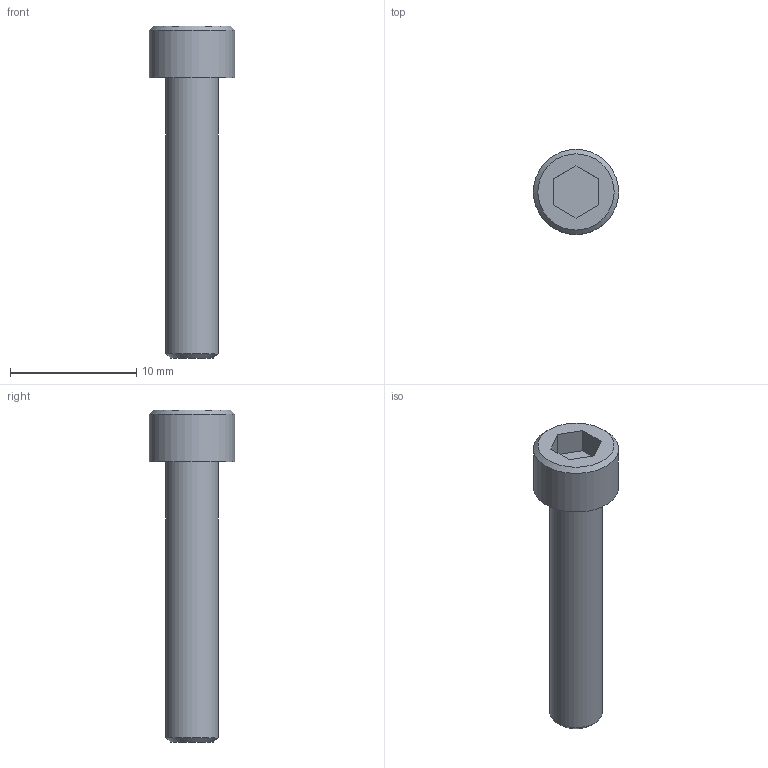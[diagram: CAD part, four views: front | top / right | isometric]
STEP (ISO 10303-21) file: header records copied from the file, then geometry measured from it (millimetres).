
FILE_DESCRIPTION((''),'2;1');
FILE_NAME('C:\Users\Stan\Desktop\import\SHCS 8-32 UNCx0.875.ipt.step','2011-08-18T17:45:31',(''),(''),'Autodesk Inventor 2012','Autodesk Inventor 2012','');
FILE_SCHEMA(('AUTOMOTIVE_DESIGN { 1 0 10303 214 1 1 1 1 }'));
Length unit declared in the file: inch
Products named in the file (1): SHCS 8-32 UNCx0.875
Bounding box: 6.76 x 6.76 x 26.34 mm (x, y, z)
Volume: 426.6 mm3; surface area: 466.7 mm2
Topology: 1 solids, 1 shells, 14 faces, 28 edges, 18 vertices
Faces by surface type: plane 10, cone 2, cylinder 2
Full cylindrical faces by diameter (mm): 4.166 x1, 6.756 x1
Entity records: 391 total; most frequent: DIRECTION 60, CARTESIAN_POINT 57, ORIENTED_EDGE 48, EDGE_CURVE 24, AXIS2_PLACEMENT_3D 21, EDGE_LOOP 20, VERTEX_POINT 18, VECTOR 18
